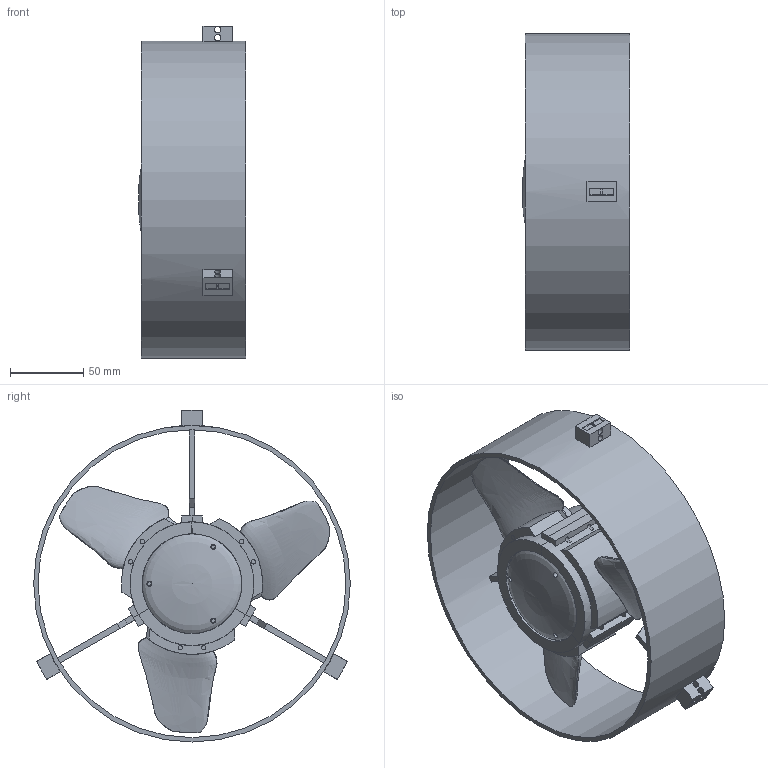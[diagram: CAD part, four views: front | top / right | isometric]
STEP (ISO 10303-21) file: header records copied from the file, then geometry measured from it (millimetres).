
FILE_DESCRIPTION(('Open CASCADE Model'),'2;1');
FILE_NAME('Open CASCADE Shape Model','2026-10-31T23:31:03',('Author'),( 'Open CASCADE'),'Open CASCADE STEP processor 7.9','Open CASCADE 7.9' ,'Unknown');
FILE_SCHEMA(('AUTOMOTIVE_DESIGN { 1 0 10303 214 1 1 1 1 }'));
Length unit declared in the file: millimetre
Products named in the file (45): v3_min76; tube; front_cap; rear_cap; oring_0; oring_1; spindle; bearing_front; bearing_rear; shim_rear; split_collar; speedi_sleeve; lip_seal; circlip_front; potting_plug; plug_oring; drive_disc; motor; boss; screw_stator_0; screw_disc_0; screw_stator_1; screw_disc_1; screw_stator_2; screw_disc_2; screw_stator_3; screw_disc_3; vent_screw; carrier_0; carrier_1; carrier_2; blade_0; pin_0_a; pin_0_b; blade_1; pin_1_a; pin_1_b; blade_2; pin_2_a; pin_2_b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
Assembly tree (44 placements, depth 2):
  v3_min76
    tube
    front_cap
    rear_cap
    oring_0
    oring_1
    spindle
    bearing_front
    bearing_rear
    shim_rear
    split_collar
    speedi_sleeve
    lip_seal
    circlip_front
    potting_plug
    plug_oring
    drive_disc
    motor
    boss
    screw_stator_0
    screw_disc_0
    screw_stator_1
    screw_disc_1
    screw_stator_2
    screw_disc_2
    screw_stator_3
    screw_disc_3
    vent_screw
    carrier_0
    carrier_1
    carrier_2
    blade_0
    pin_0_a
    pin_0_b
    blade_1
    pin_1_a
    pin_1_b
    blade_2
    pin_2_a
    pin_2_b
    dome
    strut_0
    strut_1
    strut_2
    duct
Bounding box: 73 x 216 x 226.5 mm (x, y, z)
Volume: 570215.7 mm3; surface area: 295021.6 mm2
Topology: 44 solids, 44 shells, 601 faces, 1455 edges, 967 vertices
Faces by surface type: plane 351, cylinder 210, bspline 36, torus 3, revolution 1
Full cylindrical faces by diameter (mm): 2.5 x3, 2.9 x8, 3 x27, 3.1 x10, 3.2 x12, 3.4 x11, 4.3 x15, 4.5 x2, 5 x1, 5.2 x1, 5.5 x8, 6.08 x1, 8 x4, 8.3 x4, 8.95 x2, 9 x1, 10 x1, 11 x1, 12 x1, 13.5 x2, 14.3 x2, 14.96 x1, 15 x7, 15.05 x1, 15.2 x1, 15.56 x1, 16 x1, 17.6 x2, 18 x1, 19 x1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
Entity records: 82238 total; most frequent: CARTESIAN_POINT 52268, DIRECTION 5150, ORIENTED_EDGE 2908, PCURVE 2908, DEFINITIONAL_REPRESENTATION 2908, LINE 2639, VECTOR 2639, EDGE_CURVE 1454
